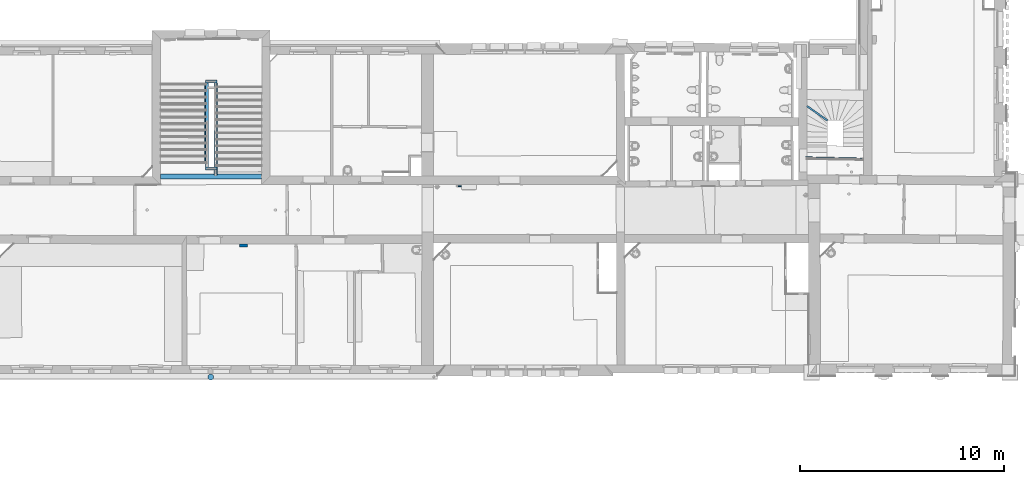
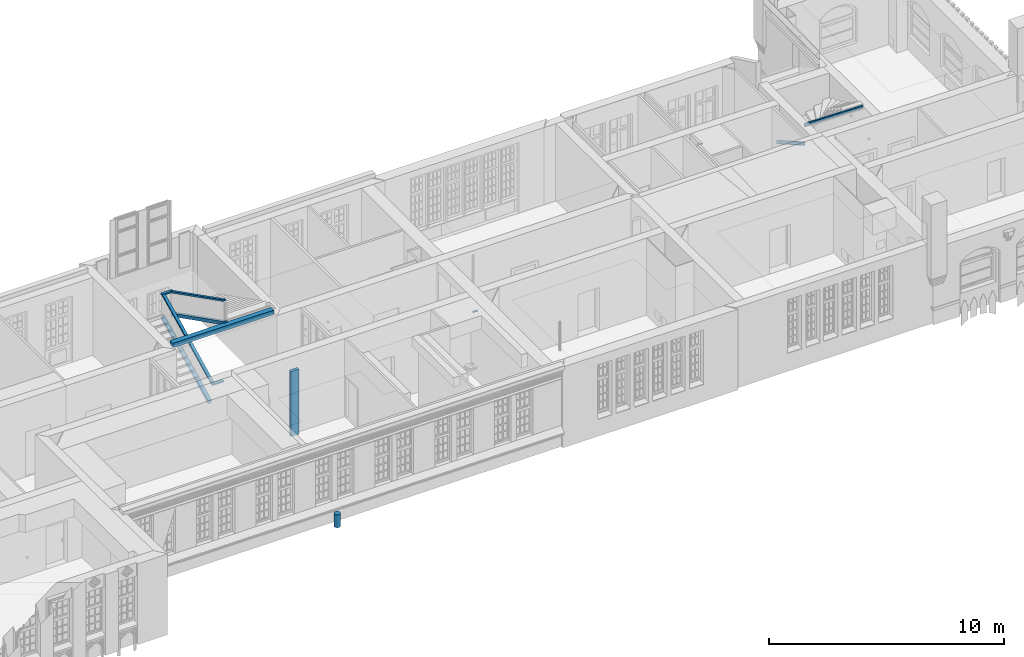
# One storey, part 1 of 90: 10 beams, 2 columns.
"""IFC2X3 building model written with IfcOpenShell, lengths in metres."""

from ifc_helpers import new_model, entity, si_unit, converted_unit, derived_unit, money_unit, direction, frame, frame_2d, origin_with_axes, origin_2d_with_axis, place, context, subcontext, project, spatial, polyline, rectangle, circle, outline, extrude, clip, halfspace, material, type_object, element, save


model = new_model("IFC2X3")

# Units and contexts
model_context = context("Model", 3, precision=1e-05, world=origin_with_axes(), true_north=direction((0.0, 1.0)))
body_context = subcontext(model_context, "Body", "Model", "MODEL_VIEW")
ifc_project = project(units=[si_unit("LENGTHUNIT", "METRE"), si_unit("AREAUNIT", "SQUARE_METRE"), si_unit("VOLUMEUNIT", "CUBIC_METRE"), converted_unit("PLANEANGLEUNIT", "DEGREE", entity("IfcPlaneAngleMeasure", 0.0174532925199), si_unit("PLANEANGLEUNIT", "RADIAN"), dimensions=[0, 0, 0, 0, 0, 0, 0]), money_unit("EUR"), converted_unit("TIMEUNIT", "Year", entity("IfcTimeMeasure", 31556926.0), si_unit("TIMEUNIT", "SECOND"), dimensions=[0, 0, 1, 0, 0, 0, 0]), si_unit("MASSUNIT", "GRAM", prefix="KILO"), si_unit("THERMODYNAMICTEMPERATUREUNIT", "DEGREE_CELSIUS"), si_unit("LUMINOUSINTENSITYUNIT", "LUMEN"), si_unit("ENERGYUNIT", "JOULE", prefix="MEGA"), derived_unit("THERMALCONDUCTANCEUNIT", [(si_unit("POWERUNIT", "WATT"), 1), (si_unit("LENGTHUNIT", "METRE"), -1), (si_unit("THERMODYNAMICTEMPERATUREUNIT", "KELVIN"), -1)]), derived_unit("SPECIFICHEATCAPACITYUNIT", [(si_unit("ENERGYUNIT", "JOULE"), 1), (si_unit("MASSUNIT", "GRAM", prefix="KILO"), -1), (si_unit("THERMODYNAMICTEMPERATUREUNIT", "KELVIN"), -1)]), derived_unit("MASSDENSITYUNIT", [(si_unit("MASSUNIT", "GRAM", prefix="KILO"), 1), (si_unit("VOLUMEUNIT", "CUBIC_METRE"), -1)])], contexts=[model_context])

# Site, building, storey
site_placement = place(None, origin_with_axes())
site = spatial("IfcSite", under=ifc_project, at=site_placement, Name="Gelände", CompositionType="ELEMENT")
building_placement = place(site_placement, origin_with_axes())
building = spatial("IfcBuilding", under=site, at=building_placement, Name="Gebäude", CompositionType="ELEMENT")
storey_placement = place(building_placement, frame((0.0, 0.0, 3.7), z_axis=(0.0, 0.0, 1.0), x_axis=(1.0, 0.0, 0.0)))
storey = spatial("IfcBuildingStorey", under=building, at=storey_placement, Name="1.OBERGESCHOSS", CompositionType="ELEMENT", Elevation=3.7)

# Columns
ifc_material_1 = material(Name="05_ALLGEMEIN - TRAGENDE BAUTEILE")
column_type_1 = type_object("IfcColumnType", Name="05_ALLGEMEIN - TRAGENDE BAUTEILE D284", PredefinedType="USERDEFINED")
column_1_placement = place(storey_placement, frame((-7.3779606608, 9.81836102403, -0.2228195), z_axis=(0.0, 0.0, 1.0), x_axis=(1.0, 0.0, 0.0)))
element("IfcColumn", 1, at=column_1_placement, inside=storey, type_object=column_type_1, material=ifc_material_1, Name="Stütze-008", ObjectType="PILASTER", context=body_context, shape_type="SweptSolid", body=[
    extrude(circle(Radius=0.141959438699, at=origin_2d_with_axis()), origin_with_axes(), (0.0, 0.0, 1.0), 0.66775),
])
column_type_2 = type_object("IfcColumnType", Name="05_ALLGEMEIN - TRAGENDE BAUTEILE 391 x 156", PredefinedType="USERDEFINED")
column_2_placement = place(storey_placement, frame((-5.76449047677, 16.2744439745, 0.05), z_axis=(0.0, 0.0, 1.0), x_axis=(0.968910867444, 0.247410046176, 0.0)))
element("IfcColumn", 2, at=column_2_placement, inside=storey, type_object=column_type_2, material=ifc_material_1, Name="Stütze-010", ObjectType="PILASTER", context=body_context, shape_type="SweptSolid", body=[
    extrude(rectangle(XDim=0.390846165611, YDim=0.155969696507, at=origin_2d_with_axis()), frame((0.0, 0.0, 0.0), z_axis=(0.0, 0.0, 1.0), x_axis=(0.969394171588, -0.245509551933, 0.0)), (0.0, 0.0, 1.0), 3.38),
])

# Beams
ifc_material_2 = material(Name="56_Metall, Stahl verzinkt")
beam_type_1 = type_object("IfcBeamType", Name="56_Metall, Stahl verzinkt D60", PredefinedType="LINTEL")
beam_1_placement = place(storey_placement, frame((4.7232027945, 19.1556927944, 0.987261), z_axis=(0.0, 0.0, 1.0), x_axis=(0.00949377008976, -0.999954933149, 0.0)))
element("IfcBeam", 3, at=beam_1_placement, inside=storey, type_object=beam_type_1, material=ifc_material_2, Name="Unterzug-018", ObjectType="LINTEL", context=body_context, shape_type="SweptSolid", body=[
    extrude(circle(Radius=0.03, at=frame_2d((0.0, -0.03), x_axis=(1.0, 0.0))), frame((0.0, 0.0, 0.0), z_axis=(0.0, 1.0, 0.0), x_axis=(0.0, 0.0, 1.0)), (0.0, 0.0, 1.0), 0.203033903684),
])
ifc_material_3 = material(Name="Stahl verzinkt")
beam_type_2 = type_object("IfcBeamType", Name="IPEA160 82 x 157", PredefinedType="LINTEL")
beam_2_placement = place(storey_placement, frame((22.9075969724, 22.415332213, 1.41317216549), z_axis=(0.0, 0.0, 1.0), x_axis=(0.575737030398, 0.817634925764, 0.0)))
element("IfcBeam", 4, at=beam_2_placement, inside=storey, type_object=beam_type_2, material=ifc_material_3, Name="Unterzug-019", ObjectType="LINTEL", context=body_context, shape_type="Clipping", body=[
    clip(clip(extrude(outline(polyline([(0.0, 0.0785), (-0.041, 0.0785), (-0.041, 0.0726), (-0.002, 0.0726), (-0.002, -0.0726), (-0.041, -0.0726), (-0.041, -0.0785), (0.041, -0.0785), (0.041, -0.0726), (0.002, -0.0726), (0.002, 0.0726), (0.041, 0.0726), (0.041, 0.0785), (0.0, 0.0785)])), frame((0.0, 1.22901969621, 0.0104400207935), z_axis=(0.0, -0.999963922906, -0.00849428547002), x_axis=(1.0, 0.0, 0.0)), (0.0, 0.0, 1.0), 1.23095010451), halfspace(frame((0.0, 0.0, 0.0), z_axis=(0.0, 1.0, 0.0), x_axis=(0.0, 0.0, 1.0)), True)), halfspace(frame((0.0, 1.22713369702, 0.0), z_axis=(0.0, -1.0, 0.0), x_axis=(0.0, 0.0, -1.0)), True)),
])
beam_3_placement = place(storey_placement, frame((24.6719796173, 20.539313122, 3.85599574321), z_axis=(0.0, 0.0, 1.0), x_axis=(0.0227781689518, 0.999740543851, 0.0)))
element("IfcBeam", 5, at=beam_3_placement, inside=storey, type_object=beam_type_2, material=ifc_material_3, Name="Unterzug-019", ObjectType="LINTEL", context=body_context, shape_type="SweptSolid", body=[
    extrude(outline(polyline([(0.0, 0.0785), (-0.041, 0.0785), (-0.041, 0.0726), (-0.002, 0.0726), (-0.002, -0.0726), (-0.041, -0.0726), (-0.041, -0.0785), (0.041, -0.0785), (0.041, -0.0726), (0.002, -0.0726), (0.002, 0.0726), (0.041, 0.0726), (0.041, 0.0785), (0.0, 0.0785)])), frame((0.0, 2.85475316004, 0.0), z_axis=(0.0, -1.0, 0.0), x_axis=(1.0, 0.0, 0.0)), (0.0, 0.0, 1.0), 2.85475316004),
])
beam_type_3 = type_object("IfcBeamType", Name="05_ALLGEMEIN - TRAGENDE BAUTEILE 170 x 157", PredefinedType="LINTEL")
beam_4_placement = place(storey_placement, frame((-7.59836426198, 24.2659204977, 1.84947656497), z_axis=(0.0, 0.0, 1.0), x_axis=(-0.999996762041, -0.00254478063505, 0.0)))
element("IfcBeam", 6, at=beam_4_placement, inside=storey, type_object=beam_type_3, material=ifc_material_1, Name="Unterzug-020", ObjectType="LINTEL", context=body_context, shape_type="Clipping", body=[
    clip(clip(extrude(rectangle(XDim=0.157, YDim=0.17, at=frame_2d((0.0785, 0.0), x_axis=(1.0, 0.0))), frame((0.0, -0.0993451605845, 0.0497036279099), z_axis=(0.0, 0.894315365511, -0.447437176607), x_axis=(0.0, 0.447437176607, 0.894315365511)), (0.0, 0.0, 1.0), 4.65872523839), halfspace(frame((0.0, 0.0, 0.0), z_axis=(0.0, 1.0, 0.0), x_axis=(0.0, 0.0, 1.0)), True)), halfspace(frame((0.0, 3.96767924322, 0.0), z_axis=(0.0, -1.0, 0.0), x_axis=(0.0, 0.0, -1.0)), True)),
])
beam_5_placement = place(storey_placement, frame((-7.12440514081, 24.2702211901, 1.85242483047), z_axis=(0.0, 0.0, 1.0), x_axis=(-0.999999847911, -0.000551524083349, 0.0)))
element("IfcBeam", 7, at=beam_5_placement, inside=storey, type_object=beam_type_3, material=ifc_material_1, Name="Unterzug-020", ObjectType="LINTEL", context=body_context, shape_type="Clipping", body=[
    clip(clip(extrude(rectangle(XDim=0.157, YDim=0.17, at=frame_2d((0.0785, 0.0), x_axis=(1.0, 0.0))), frame((0.0, -0.100182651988, -0.0506526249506), z_axis=(0.0, 0.892418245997, 0.4512091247), x_axis=(0.0, -0.4512091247, 0.892418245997)), (0.0, 0.0, 1.0), 5.28670017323), halfspace(frame((0.0, 0.0, 0.0), z_axis=(0.0, 1.0, 0.0), x_axis=(0.0, 0.0, 1.0)), True)), halfspace(frame((0.0, 4.51758239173, 0.0), z_axis=(0.0, -1.0, 0.0), x_axis=(0.0, 0.0, -1.0)), True)),
])
beam_type_4 = type_object("IfcBeamType", Name="05_ALLGEMEIN - TRAGENDE BAUTEILE 145 x 80", PredefinedType="LINTEL")
beam_6_placement = place(storey_placement, frame((-7.0782049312, 19.9899313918, 1.06321372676), z_axis=(0.0, 0.0, 1.0), x_axis=(-0.00132627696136, 0.999999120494, 0.0)))
element("IfcBeam", 8, at=beam_6_placement, inside=storey, type_object=beam_type_4, material=ifc_material_1, Name="Unterzug-021", ObjectType="LINTEL", context=body_context, shape_type="Clipping", body=[
    clip(clip(extrude(rectangle(XDim=0.08, YDim=0.145, at=frame_2d((-0.04, 0.0725), x_axis=(1.0, 0.0))), frame((0.0, -0.000888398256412, 6.9762783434e-06), z_axis=(0.0, 0.99996916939, -0.00785240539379), x_axis=(0.0, 0.00785240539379, 0.99996916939)), (0.0, 0.0, 1.0), 0.554471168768), halfspace(frame((0.0, 0.0, 0.0), z_axis=(0.0, 1.0, 0.0), x_axis=(0.0, 0.0, 1.0)), True)), halfspace(frame((0.0, 0.552677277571, 0.0), z_axis=(0.0, -1.0, 0.0), x_axis=(0.0, 0.0, -1.0)), True)),
])
beam_7_placement = place(storey_placement, frame((-7.6311660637, 20.1295965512, 1.07137066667), z_axis=(0.0, 0.0, 1.0), x_axis=(0.999997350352, 0.00230201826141, 0.0)))
element("IfcBeam", 9, at=beam_7_placement, inside=storey, type_object=beam_type_4, material=ifc_material_1, Name="Unterzug-022", ObjectType="LINTEL", context=body_context, shape_type="Clipping", body=[
    clip(clip(extrude(rectangle(XDim=0.08, YDim=0.145, at=frame_2d((-0.04, 0.0725), x_axis=(1.0, 0.0))), frame((0.0, -0.0506553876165, -0.025364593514), z_axis=(0.0, 0.89416649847, 0.44773460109), x_axis=(0.0, -0.44773460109, 0.89416649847)), (0.0, 0.0, 1.0), 4.73914497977), halfspace(frame((0.0, 0.0, 0.0), z_axis=(0.0, 1.0, 0.0), x_axis=(0.0, 0.0, 1.0)), True)), halfspace(frame((0.0, 4.13627389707, 0.0), z_axis=(0.0, -1.0, 0.0), x_axis=(0.0, 0.0, -1.0)), True)),
])
beam_8_placement = place(storey_placement, frame((-7.6405228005, 24.2605879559, 3.14252066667), z_axis=(0.0, 0.0, 1.0), x_axis=(0.00149980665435, -0.999998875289, 0.0)))
element("IfcBeam", 10, at=beam_8_placement, inside=storey, type_object=beam_type_4, material=ifc_material_1, Name="Unterzug-023", ObjectType="LINTEL", context=body_context, shape_type="SweptSolid", body=[
    extrude(rectangle(XDim=0.08, YDim=0.145, at=frame_2d((-0.04, -0.0725), x_axis=(1.0, 0.0))), frame((0.0, 0.0, 0.0), z_axis=(0.0, 1.0, 0.0), x_axis=(0.0, 0.0, 1.0)), (0.0, 0.0, 1.0), 0.563238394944),
])
beam_9_placement = place(storey_placement, frame((-7.2223442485, 24.3008106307, 3.14252066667), z_axis=(0.0, 0.0, 1.0), x_axis=(-0.999998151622, -0.00192269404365, 0.0)))
element("IfcBeam", 11, at=beam_9_placement, inside=storey, type_object=beam_type_4, material=ifc_material_1, Name="Unterzug-024", ObjectType="LINTEL", context=body_context, shape_type="Clipping", body=[
    clip(clip(extrude(rectangle(XDim=0.08, YDim=0.145, at=frame_2d((-0.04, -0.0725), x_axis=(1.0, 0.0))), frame((0.0, -0.0510469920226, -0.0258085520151), z_axis=(0.0, 0.892424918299, 0.45119592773), x_axis=(0.0, -0.45119592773, 0.892424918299)), (0.0, 0.0, 1.0), 5.13959468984), halfspace(frame((0.0, 0.0, 0.0), z_axis=(0.0, 1.0, 0.0), x_axis=(0.0, 0.0, 1.0)), True)), halfspace(frame((0.0, 4.48460838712, 0.0), z_axis=(0.0, -1.0, 0.0), x_axis=(0.0, 0.0, -1.0)), True)),
])
beam_type_5 = type_object("IfcBeamType", Name="05_ALLGEMEIN - TRAGENDE BAUTEILE 241 x 232", PredefinedType="LINTEL")
beam_10_placement = place(storey_placement, frame((-4.87511291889, 19.7874604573, 3.99214625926), z_axis=(0.0, 0.0, 1.0), x_axis=(0.00155087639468, 0.99999879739, 0.0)))
element("IfcBeam", 12, at=beam_10_placement, inside=storey, type_object=beam_type_5, material=ifc_material_1, Name="Unterzug-022", ObjectType="LINTEL", context=body_context, shape_type="SweptSolid", body=[
    extrude(rectangle(XDim=0.231586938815, YDim=0.240856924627, at=frame_2d((0.115793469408, -0.120428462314), x_axis=(1.0, 0.0))), frame((0.0, 0.0, 0.0), z_axis=(0.0, 1.0, 0.0), x_axis=(0.0, 0.0, 1.0)), (0.0, 0.0, 1.0), 4.9664239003),
])

save(model, "model.ifc")
